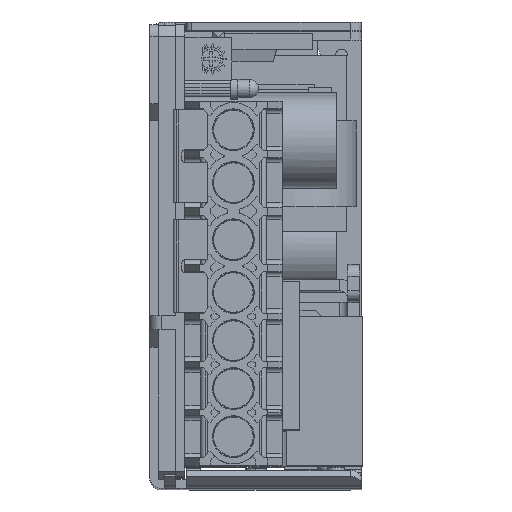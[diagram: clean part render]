
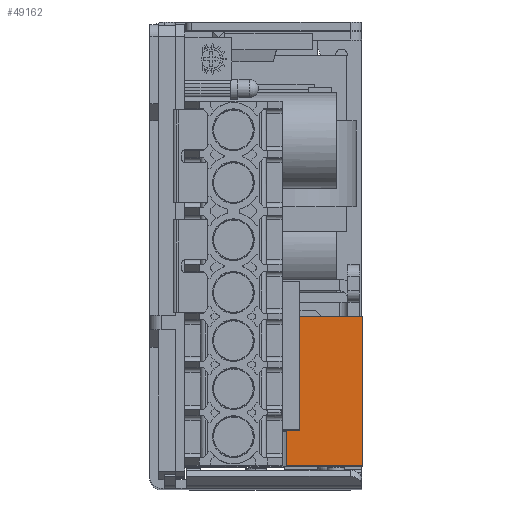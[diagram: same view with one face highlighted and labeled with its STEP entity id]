
A CAD part, top view. The second image highlights one B-rep face of the part: STEP entity #49162.
In plain terms, the highlighted planar face has unit normal (0, 0, 1).
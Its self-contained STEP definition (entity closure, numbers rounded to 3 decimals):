
#2097 = CARTESIAN_POINT ( 'NONE',  ( 11.1, 30.1, -33.8 ) ) ;
#2580 = CARTESIAN_POINT ( 'NONE',  ( 37.1, 4.1, -33.8 ) ) ;
#13775 = DIRECTION ( 'NONE',  ( -1., 0., 0. ) ) ;
#21045 = ORIENTED_EDGE ( 'NONE', *, *, #62466, .T. ) ;
#25423 = DIRECTION ( 'NONE',  ( 0., 0., -1. ) ) ;
#26599 = LINE ( 'NONE', #93735, #106411 ) ;
#31827 = VERTEX_POINT ( 'NONE', #2580 ) ;
#43731 = VERTEX_POINT ( 'NONE', #122028 ) ;
#44989 = CARTESIAN_POINT ( 'NONE',  ( 6.1, 30.1, -33.8 ) ) ;
#47627 = LINE ( 'NONE', #93629, #148497 ) ;
#48775 = VERTEX_POINT ( 'NONE', #138214 ) ;
#49162 = ADVANCED_FACE ( 'NONE', ( #130223 ), #106130, .F. ) ;
#62466 = EDGE_CURVE ( 'NONE', #48775, #43731, #47627, .T. ) ;
#64304 = ORIENTED_EDGE ( 'NONE', *, *, #148011, .F. ) ;
#68069 = ORIENTED_EDGE ( 'NONE', *, *, #126735, .T. ) ;
#74014 = DIRECTION ( 'NONE',  ( -1., 0., 0. ) ) ;
#93629 = CARTESIAN_POINT ( 'NONE',  ( 11.1, 30.1, -33.8 ) ) ;
#93735 = CARTESIAN_POINT ( 'NONE',  ( 11.1, 4.1, -33.8 ) ) ;
#99931 = ORIENTED_EDGE ( 'NONE', *, *, #135641, .F. ) ;
#103799 = LINE ( 'NONE', #127897, #120356 ) ;
#106130 = PLANE ( 'NONE',  #133937 ) ;
#106411 = VECTOR ( 'NONE', #13775, 1000. ) ;
#118165 = DIRECTION ( 'NONE',  ( 0., 1., 0. ) ) ;
#120356 = VECTOR ( 'NONE', #149109, 1000. ) ;
#122028 = CARTESIAN_POINT ( 'NONE',  ( 6.1, 30.1, -33.8 ) ) ;
#126735 = EDGE_CURVE ( 'NONE', #43731, #127641, #146141, .T. ) ;
#127641 = VERTEX_POINT ( 'NONE', #129446 ) ;
#127897 = CARTESIAN_POINT ( 'NONE',  ( 37.1, 4.1, -33.8 ) ) ;
#129446 = CARTESIAN_POINT ( 'NONE',  ( 6.1, 4.1, -33.8 ) ) ;
#130223 = FACE_OUTER_BOUND ( 'NONE', #137341, .T. ) ;
#133937 = AXIS2_PLACEMENT_3D ( 'NONE', #2097, #25423, #118165 ) ;
#134406 = VECTOR ( 'NONE', #137780, 1000. ) ;
#135641 = EDGE_CURVE ( 'NONE', #48775, #31827, #103799, .T. ) ;
#137341 = EDGE_LOOP ( 'NONE', ( #68069, #64304, #99931, #21045 ) ) ;
#137780 = DIRECTION ( 'NONE',  ( 0., -1., 0. ) ) ;
#138214 = CARTESIAN_POINT ( 'NONE',  ( 37.1, 30.1, -33.8 ) ) ;
#146141 = LINE ( 'NONE', #44989, #134406 ) ;
#148011 = EDGE_CURVE ( 'NONE', #31827, #127641, #26599, .T. ) ;
#148497 = VECTOR ( 'NONE', #74014, 1000. ) ;
#149109 = DIRECTION ( 'NONE',  ( 0., -1., 0. ) ) ;
